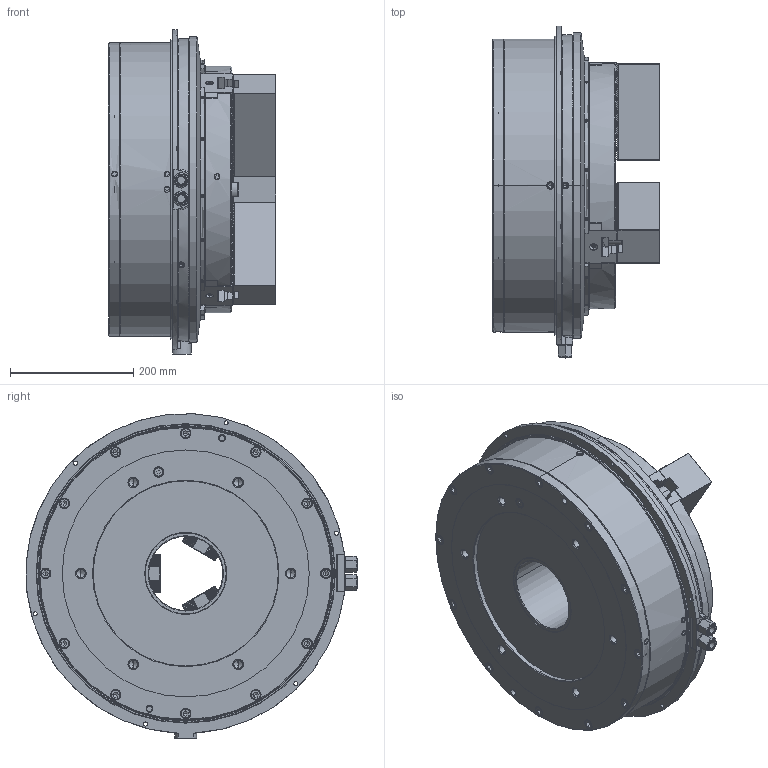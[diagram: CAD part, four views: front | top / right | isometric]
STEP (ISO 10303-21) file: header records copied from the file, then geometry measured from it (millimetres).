
FILE_DESCRIPTION (( 'STEP AP214' ), '1' );
FILE_NAME ('DEV-UVE400K-HCL.STEP', '2024-10-03T05:53:23', ( '' ), ( '' ), 'SwSTEP 2.0', 'SolidWorks 2022', '' );
FILE_SCHEMA (( 'AUTOMOTIVE_DESIGN' ));
Length unit declared in the file: millimetre
Products named in the file (6): Copy of 0693000003^DEV-UVE400K-クミタテ; Part1^DEV-UVE400K-クミタテ; DEV-UVE400K-HCL; Copy of 61P862639^DEV-UVE400K-クミタテ; Copy of 61P401355^DEV-UVE400K-クミタテ; Copy of 0030120045^DEV-UVE400K-クミタテ
Assembly tree (18 placements, depth 2):
  DEV-UVE400K-HCL
    Copy of 61P401355^DEV-UVE400K-クミタテ  x6
    Copy of 61P862639^DEV-UVE400K-クミタテ  x3
    Copy of 0030120045^DEV-UVE400K-クミタテ  x6
    Copy of 0693000003^DEV-UVE400K-クミタテ  x2
    Part1^DEV-UVE400K-クミタテ
Bounding box: 271.51 x 537.7 x 525.69 mm (x, y, z)
Volume: 32324555 mm3; surface area: 1262142.6 mm2
Topology: 20 solids, 50 shells, 5632 faces, 15617 edges, 10192 vertices
Faces by surface type: plane 3436, cylinder 1289, cone 632, bspline 212, torus 43, sphere 20
Entity records: 155038 total; most frequent: CARTESIAN_POINT 43205, ORIENTED_EDGE 24294, DIRECTION 21543, EDGE_CURVE 12147, VECTOR 8229, LINE 8229, VERTEX_POINT 7990, AXIS2_PLACEMENT_3D 6657
